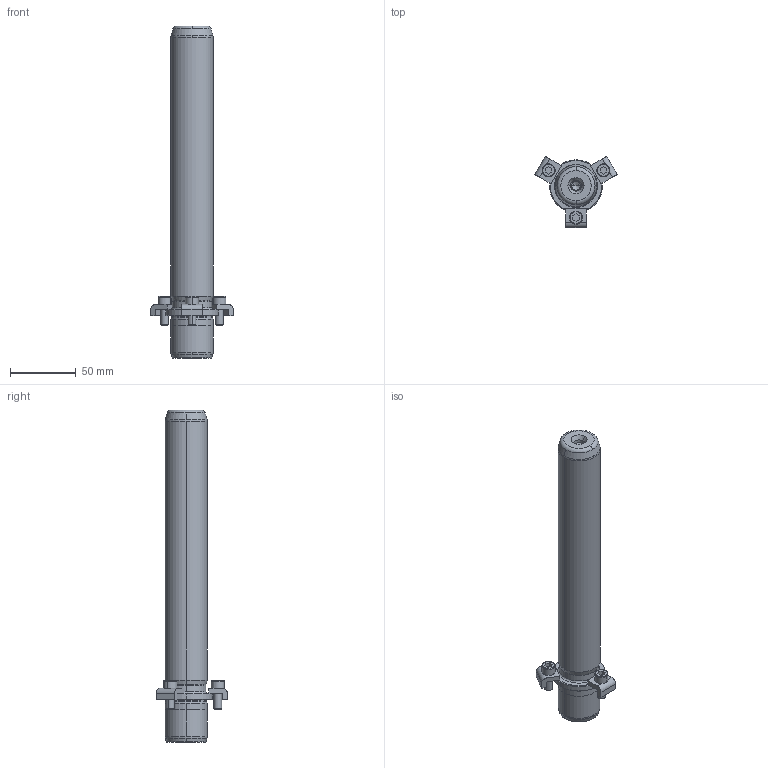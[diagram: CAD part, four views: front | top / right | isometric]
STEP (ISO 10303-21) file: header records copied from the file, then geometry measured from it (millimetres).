
FILE_DESCRIPTION((''),'2;1');
FILE_NAME('P21_032_220.stp','2008-12-23T10:35:04',(''),(''),'Mechanical Desktop 2009','Mechanical Desktop 2009',', , ');
FILE_SCHEMA(('CONFIG_CONTROL_DESIGN'));
Length unit declared in the file: millimetre
Products named in the file (2): Product; blmdl1
Assembly tree (1 placements, depth 2):
  Product
    blmdl1
Bounding box: 62.51 x 54.13 x 252 mm (x, y, z)
Volume: 206061.3 mm3; surface area: 33219.2 mm2
Topology: 7 solids, 7 shells, 163 faces, 399 edges, 257 vertices
Faces by surface type: plane 59, cylinder 44, cone 32, torus 14, bspline 14
Entity records: 5517 total; most frequent: CARTESIAN_POINT 1433, DIRECTION 908, ORIENTED_EDGE 790, EDGE_CURVE 395, AXIS2_PLACEMENT_3D 362, VERTEX_POINT 257, CIRCLE 211, VECTOR 184
